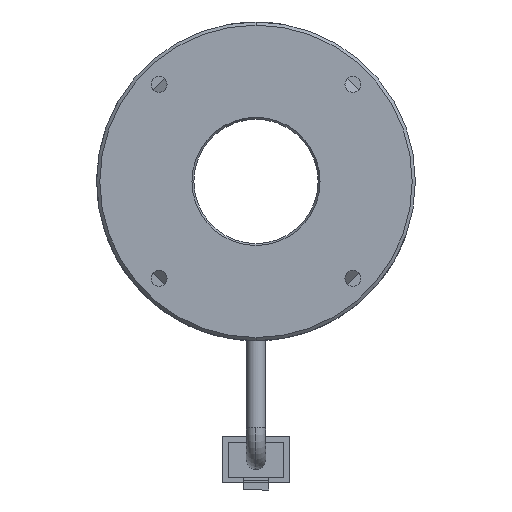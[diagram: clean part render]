
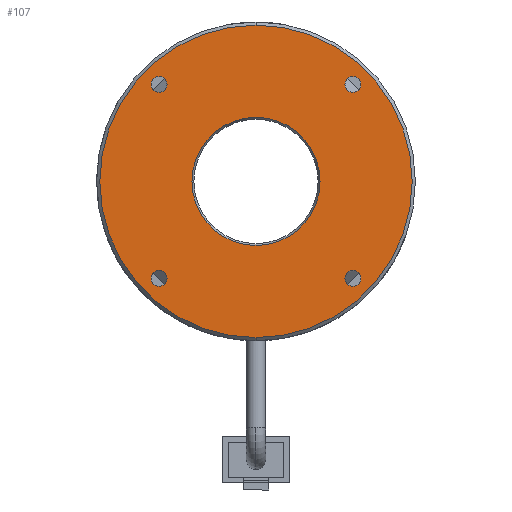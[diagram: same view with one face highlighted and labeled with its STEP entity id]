
A CAD part, front view. The second image highlights one B-rep face of the part: STEP entity #107.
In plain terms, the highlighted planar face has unit normal (0, -1, 0).
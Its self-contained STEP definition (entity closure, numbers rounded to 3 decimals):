
#107 = ADVANCED_FACE ( 'NONE', ( #5571, #797, #4193, #2980, #500, #2830 ), #5594, .F. ) ;
#116 = DIRECTION ( 'NONE',  ( 0., -1., 0. ) ) ;
#281 = VERTEX_POINT ( 'NONE', #4392 ) ;
#287 = AXIS2_PLACEMENT_3D ( 'NONE', #6062, #2644, #2242 ) ;
#310 = AXIS2_PLACEMENT_3D ( 'NONE', #2449, #116, #3019 ) ;
#410 = CARTESIAN_POINT ( 'NONE',  ( 15.203, 0., 16.453 ) ) ;
#498 = CIRCLE ( 'NONE', #3108, 24.5 ) ;
#500 = FACE_BOUND ( 'NONE', #1749, .T. ) ;
#501 = CARTESIAN_POINT ( 'NONE',  ( -15.203, 0., 15.203 ) ) ;
#511 = CIRCLE ( 'NONE', #287, 1.25 ) ;
#579 = EDGE_CURVE ( 'NONE', #709, #5401, #4852, .T. ) ;
#607 = AXIS2_PLACEMENT_3D ( 'NONE', #5341, #2423, #2909 ) ;
#655 = EDGE_LOOP ( 'NONE', ( #1977, #3630 ) ) ;
#664 = VERTEX_POINT ( 'NONE', #4399 ) ;
#709 = VERTEX_POINT ( 'NONE', #4492 ) ;
#797 = FACE_BOUND ( 'NONE', #655, .T. ) ;
#815 = CARTESIAN_POINT ( 'NONE',  ( -15.203, 0., -13.953 ) ) ;
#843 = EDGE_LOOP ( 'NONE', ( #5540, #874 ) ) ;
#867 = DIRECTION ( 'NONE',  ( 0., -1., 0. ) ) ;
#874 = ORIENTED_EDGE ( 'NONE', *, *, #5105, .T. ) ;
#915 = VERTEX_POINT ( 'NONE', #3920 ) ;
#916 = DIRECTION ( 'NONE',  ( 0., -1., 0. ) ) ;
#922 = DIRECTION ( 'NONE',  ( 0., 0., -1. ) ) ;
#967 = DIRECTION ( 'NONE',  ( 0., -1., 0. ) ) ;
#1049 = DIRECTION ( 'NONE',  ( 0., -1., 0. ) ) ;
#1089 = DIRECTION ( 'NONE',  ( 0., -1., 0. ) ) ;
#1109 = ORIENTED_EDGE ( 'NONE', *, *, #6044, .F. ) ;
#1199 = DIRECTION ( 'NONE',  ( 0., 1., 0. ) ) ;
#1208 = CIRCLE ( 'NONE', #5717, 1.25 ) ;
#1236 = EDGE_CURVE ( 'NONE', #5401, #709, #2322, .T. ) ;
#1262 = AXIS2_PLACEMENT_3D ( 'NONE', #4224, #5185, #4771 ) ;
#1264 = EDGE_CURVE ( 'NONE', #664, #3074, #1208, .T. ) ;
#1327 = VERTEX_POINT ( 'NONE', #2024 ) ;
#1348 = CARTESIAN_POINT ( 'NONE',  ( -15.203, 0., -16.453 ) ) ;
#1380 = VERTEX_POINT ( 'NONE', #2554 ) ;
#1646 = EDGE_LOOP ( 'NONE', ( #2175, #2655 ) ) ;
#1680 = ORIENTED_EDGE ( 'NONE', *, *, #5743, .F. ) ;
#1749 = EDGE_LOOP ( 'NONE', ( #1109, #3439 ) ) ;
#1775 = CIRCLE ( 'NONE', #5164, 1.25 ) ;
#1801 = DIRECTION ( 'NONE',  ( 0., 0., -1. ) ) ;
#1833 = DIRECTION ( 'NONE',  ( 0., -1., 0. ) ) ;
#1835 = EDGE_LOOP ( 'NONE', ( #2722, #1680 ) ) ;
#1977 = ORIENTED_EDGE ( 'NONE', *, *, #1236, .T. ) ;
#2021 = EDGE_CURVE ( 'NONE', #4998, #2723, #511, .T. ) ;
#2024 = CARTESIAN_POINT ( 'NONE',  ( 0., 0., -24.5 ) ) ;
#2175 = ORIENTED_EDGE ( 'NONE', *, *, #1264, .F. ) ;
#2192 = EDGE_CURVE ( 'NONE', #3074, #664, #3083, .T. ) ;
#2242 = DIRECTION ( 'NONE',  ( 0., 0., -1. ) ) ;
#2266 = CARTESIAN_POINT ( 'NONE',  ( 15.203, 0., -15.203 ) ) ;
#2322 = CIRCLE ( 'NONE', #607, 10.05 ) ;
#2418 = DIRECTION ( 'NONE',  ( 0., 0., 1. ) ) ;
#2423 = DIRECTION ( 'NONE',  ( 0., 1., 0. ) ) ;
#2426 = AXIS2_PLACEMENT_3D ( 'NONE', #4597, #1199, #2670 ) ;
#2449 = CARTESIAN_POINT ( 'NONE',  ( 15.203, 0., -15.203 ) ) ;
#2492 = AXIS2_PLACEMENT_3D ( 'NONE', #4528, #1089, #4457 ) ;
#2498 = CIRCLE ( 'NONE', #310, 1.25 ) ;
#2554 = CARTESIAN_POINT ( 'NONE',  ( -15.203, 0., 13.953 ) ) ;
#2575 = ORIENTED_EDGE ( 'NONE', *, *, #5555, .F. ) ;
#2601 = CARTESIAN_POINT ( 'NONE',  ( 15.203, 0., -16.453 ) ) ;
#2644 = DIRECTION ( 'NONE',  ( 0., -1., 0. ) ) ;
#2655 = ORIENTED_EDGE ( 'NONE', *, *, #2192, .F. ) ;
#2670 = DIRECTION ( 'NONE',  ( 0., 0., 1. ) ) ;
#2722 = ORIENTED_EDGE ( 'NONE', *, *, #6056, .F. ) ;
#2723 = VERTEX_POINT ( 'NONE', #1348 ) ;
#2813 = DIRECTION ( 'NONE',  ( 0., 0., 1. ) ) ;
#2830 = FACE_BOUND ( 'NONE', #1835, .T. ) ;
#2844 = DIRECTION ( 'NONE',  ( 0., 0., -1. ) ) ;
#2909 = DIRECTION ( 'NONE',  ( 0., 0., 1. ) ) ;
#2980 = FACE_BOUND ( 'NONE', #3983, .T. ) ;
#3019 = DIRECTION ( 'NONE',  ( 0., 0., -1. ) ) ;
#3074 = VERTEX_POINT ( 'NONE', #410 ) ;
#3083 = CIRCLE ( 'NONE', #4623, 1.25 ) ;
#3108 = AXIS2_PLACEMENT_3D ( 'NONE', #3860, #967, #2418 ) ;
#3110 = CIRCLE ( 'NONE', #3774, 1.25 ) ;
#3244 = CARTESIAN_POINT ( 'NONE',  ( 0., 0., 0. ) ) ;
#3284 = EDGE_CURVE ( 'NONE', #1380, #281, #1775, .T. ) ;
#3439 = ORIENTED_EDGE ( 'NONE', *, *, #2021, .F. ) ;
#3475 = DIRECTION ( 'NONE',  ( 0., 0., -1. ) ) ;
#3521 = ORIENTED_EDGE ( 'NONE', *, *, #3284, .F. ) ;
#3630 = ORIENTED_EDGE ( 'NONE', *, *, #579, .T. ) ;
#3709 = EDGE_CURVE ( 'NONE', #915, #1327, #498, .T. ) ;
#3774 = AXIS2_PLACEMENT_3D ( 'NONE', #2266, #1833, #2844 ) ;
#3860 = CARTESIAN_POINT ( 'NONE',  ( 0., 0., 0. ) ) ;
#3868 = VERTEX_POINT ( 'NONE', #2601 ) ;
#3920 = CARTESIAN_POINT ( 'NONE',  ( 0., 0., 24.5 ) ) ;
#3983 = EDGE_LOOP ( 'NONE', ( #3521, #2575 ) ) ;
#3995 = CARTESIAN_POINT ( 'NONE',  ( 15.203, 0., 15.203 ) ) ;
#4104 = CARTESIAN_POINT ( 'NONE',  ( 0., 0., -10.05 ) ) ;
#4193 = FACE_BOUND ( 'NONE', #1646, .T. ) ;
#4224 = CARTESIAN_POINT ( 'NONE',  ( -15.203, 0., -15.203 ) ) ;
#4238 = AXIS2_PLACEMENT_3D ( 'NONE', #501, #5794, #922 ) ;
#4328 = CARTESIAN_POINT ( 'NONE',  ( -15.203, 0., 15.203 ) ) ;
#4392 = CARTESIAN_POINT ( 'NONE',  ( -15.203, 0., 16.453 ) ) ;
#4399 = CARTESIAN_POINT ( 'NONE',  ( 15.203, 0., 13.953 ) ) ;
#4457 = DIRECTION ( 'NONE',  ( 0., 0., 1. ) ) ;
#4483 = CIRCLE ( 'NONE', #4238, 1.25 ) ;
#4492 = CARTESIAN_POINT ( 'NONE',  ( 0., 0., 10.05 ) ) ;
#4528 = CARTESIAN_POINT ( 'NONE',  ( 0., 0., 0. ) ) ;
#4597 = CARTESIAN_POINT ( 'NONE',  ( 12., 0., 0. ) ) ;
#4623 = AXIS2_PLACEMENT_3D ( 'NONE', #4655, #867, #1801 ) ;
#4655 = CARTESIAN_POINT ( 'NONE',  ( 15.203, 0., 15.203 ) ) ;
#4771 = DIRECTION ( 'NONE',  ( 0., 0., -1. ) ) ;
#4834 = DIRECTION ( 'NONE',  ( 0., 0., -1. ) ) ;
#4852 = CIRCLE ( 'NONE', #5641, 10.05 ) ;
#4971 = CARTESIAN_POINT ( 'NONE',  ( 15.203, 0., -13.953 ) ) ;
#4998 = VERTEX_POINT ( 'NONE', #815 ) ;
#5105 = EDGE_CURVE ( 'NONE', #1327, #915, #6213, .T. ) ;
#5164 = AXIS2_PLACEMENT_3D ( 'NONE', #4328, #916, #4834 ) ;
#5185 = DIRECTION ( 'NONE',  ( 0., -1., 0. ) ) ;
#5261 = VERTEX_POINT ( 'NONE', #4971 ) ;
#5341 = CARTESIAN_POINT ( 'NONE',  ( 0., 0., 0. ) ) ;
#5401 = VERTEX_POINT ( 'NONE', #4104 ) ;
#5540 = ORIENTED_EDGE ( 'NONE', *, *, #3709, .T. ) ;
#5555 = EDGE_CURVE ( 'NONE', #281, #1380, #4483, .T. ) ;
#5571 = FACE_OUTER_BOUND ( 'NONE', #843, .T. ) ;
#5594 = PLANE ( 'NONE',  #2426 ) ;
#5608 = CIRCLE ( 'NONE', #1262, 1.25 ) ;
#5641 = AXIS2_PLACEMENT_3D ( 'NONE', #3244, #5712, #2813 ) ;
#5712 = DIRECTION ( 'NONE',  ( 0., 1., 0. ) ) ;
#5717 = AXIS2_PLACEMENT_3D ( 'NONE', #3995, #1049, #3475 ) ;
#5743 = EDGE_CURVE ( 'NONE', #5261, #3868, #2498, .T. ) ;
#5794 = DIRECTION ( 'NONE',  ( 0., -1., 0. ) ) ;
#6044 = EDGE_CURVE ( 'NONE', #2723, #4998, #5608, .T. ) ;
#6056 = EDGE_CURVE ( 'NONE', #3868, #5261, #3110, .T. ) ;
#6062 = CARTESIAN_POINT ( 'NONE',  ( -15.203, 0., -15.203 ) ) ;
#6213 = CIRCLE ( 'NONE', #2492, 24.5 ) ;
